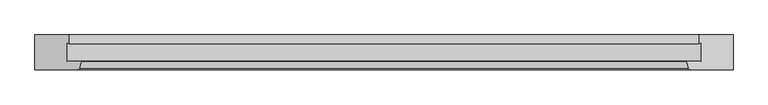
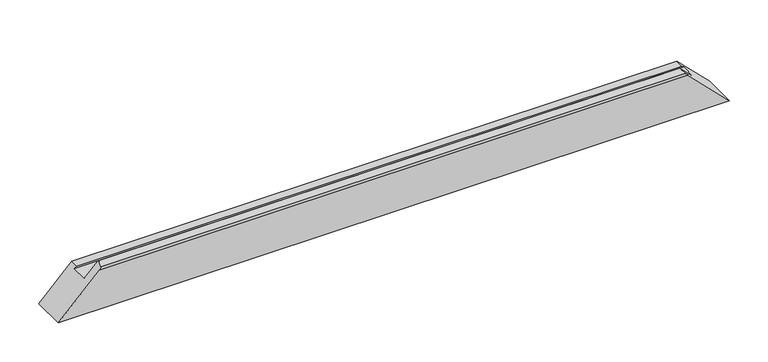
"""IFC4 building model written with IfcOpenShell, lengths in millimetres: proxy geometry, Weiku - Montante - Caixilho 02.2.01.005 : Weiku - Montante - Caixilho 02.2.01.005."""

from ifc_helpers import new_model, si_unit, frame, origin, place, context, project, spatial, ellipse_curve, source, transform, mapped, element, save
from ifc_brep_helpers import plane_surface, cylinder_surface, advanced_brep


def generic_models_15426903(model_context):
    return source(origin(), model_context, "Body", "AdvancedBrep", [
        advanced_brep(
        [(-453.625, 12.5, 46.0), (-433.5159676, 12.5, 66.1090324), (433.5159676, 12.5, 66.1090324), (453.625, 12.5, 46.0), (-453.625, 37.8314286, 46.0), (453.625, 37.8314286, 46.0), (-450.625, 37.027581, 49.0), (450.625, 37.027581, 49.0), (-450.625, 50.0, 49.0), (450.625, 50.0, 49.0), (499.625, 50.0, 0.0), (-499.625, 50.0, 0.0), (499.625, 0.0, 0.0), (-499.625, 0.0, 0.0), (438.1247332, 0.0, 61.5002668), (-438.1247332, 0.0, 61.5002668), (-432.743227, 11.4929448, 66.881773), (-435.2269557, 2.2235429, 64.3980443), (435.2269557, 2.2235429, 64.3980443), (432.743227, 11.4929448, 66.881773)],
        [
            (0, 1),
            (1, 2),
            (2, 3),
            (3, 0),
            (4, 0),
            (3, 5),
            (5, 4),
            (6, 4),
            (5, 7),
            (7, 6),
            (8, 6),
            (7, 9),
            (9, 8),
            (10, 11),
            (11, 8),
            (9, 10),
            (10, 12),
            (12, 13),
            (13, 11),
            (12, 14),
            (14, 15),
            (15, 13),
            (16, 17),
            (17, 18),
            (18, 19),
            (19, 16),
            (15, 17, ellipse_curve(frame((-438.1247332, 3.0, 61.5002668), z_axis=(-0.707106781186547, 0.0, 0.707106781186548), x_axis=(-0.7071067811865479, 0.0, -0.707106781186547)), 4.2426407, 3.0)),
            (16, 1, ellipse_curve(frame((-433.5159676, 11.7, 66.1090324), z_axis=(-0.707106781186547, 0.0, 0.707106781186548), x_axis=(-0.7071067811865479, 0.0, -0.707106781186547)), 1.1313708, 0.8)),
            (2, 19, ellipse_curve(frame((433.5159676, 11.7, 66.1090324), z_axis=(0.707106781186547, 0.0, 0.7071067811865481), x_axis=(-0.7071067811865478, 0.0, 0.707106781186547)), 1.1313708, 0.8)),
            (18, 14, ellipse_curve(frame((438.1247332, 3.0, 61.5002668), z_axis=(0.707106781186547, 0.0, 0.7071067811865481), x_axis=(-0.7071067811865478, 0.0, 0.707106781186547)), 4.2426407, 3.0)),
        ],
        [
            plane_surface(frame((-499.625, 12.5, 66.1090324), z_axis=(0.0, 1.0, 0.0), x_axis=(1.0, 0.0, 0.0))),
            plane_surface(frame((-499.625, 12.5, 46.0), z_axis=(0.0, 0.0, 1.0), x_axis=(1.0, 0.0, 0.0))),
            plane_surface(frame((-499.625, 37.8314286, 46.0), z_axis=(0.0, -0.9659258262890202, -0.2588190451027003), x_axis=(1.0, 0.0, 0.0))),
            plane_surface(frame((-499.625, 37.027581, 49.0), z_axis=(0.0, 0.0, 1.0), x_axis=(1.0, 0.0, 0.0))),
            plane_surface(frame((-499.625, 50.0, 49.0), z_axis=(0.0, 1.0, 0.0), x_axis=(1.0, 0.0, 0.0))),
            plane_surface(frame((-499.625, 50.0, 0.0), z_axis=(0.0, 0.0, -1.0), x_axis=(1.0, 0.0, 0.0))),
            plane_surface(frame((-499.625, 0.0, 0.0), z_axis=(0.0, -1.0, 0.0), x_axis=(1.0, 0.0, 0.0))),
            plane_surface(frame((-499.625, 2.2235429, 64.3980443), z_axis=(0.0, -0.2588190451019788, 0.9659258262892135), x_axis=(1.0, 0.0, 0.0))),
            plane_surface(frame((-569.625, -15.0, -70.0), z_axis=(-0.707106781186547, 0.0, 0.707106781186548), x_axis=(0.0, 1.0, 0.0))),
            plane_surface(frame((429.625, -15.0, 70.0), z_axis=(0.707106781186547, 0.0, 0.7071067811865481), x_axis=(0.0, 1.0, 0.0))),
            cylinder_surface(frame((-499.625, 11.7, 66.1090324), z_axis=(-1.0, 0.0, 0.0), x_axis=(0.0, 1.0, 0.0)), 0.8),
            cylinder_surface(frame((-499.625, 3.0, 61.5002668), z_axis=(-1.0, 0.0, 0.0), x_axis=(0.0, 1.0, 0.0)), 3.0),
        ],
        [
            (0, [[1, 2, 3, 4]]),
            (1, [[5, -4, 6, 7]]),
            (2, [[8, -7, 9, 10]]),
            (3, [[11, -10, 12, 13]]),
            (4, [[14, 15, -13, 16]]),
            (5, [[-14, 17, 18, 19]]),
            (6, [[-18, 20, 21, 22]]),
            (7, [[23, 24, 25, 26]]),
            (8, [[-1, -5, -8, -11, -15, -19, -22, 27, -23, 28]]),
            (9, [[-3, 29, -25, 30, -20, -17, -16, -12, -9, -6]]),
            (10, [[-28, -26, -29, -2]]),
            (11, [[-27, -21, -30, -24]]),
        ],
    ),
    ])


if __name__ == "__main__":
    model = new_model("IFC4")
    model_context = context("Model", 3, world=origin())
    ifc_project = project(units=[si_unit("LENGTHUNIT", "METRE", prefix="MILLI")], contexts=[model_context])
    site = spatial("IfcSite", under=ifc_project)
    building = spatial("IfcBuilding", under=site)
    placement = place(None, origin())
    generic_models_shape = generic_models_15426903(model_context)
    element("IfcBuildingElementProxy", 1, Name="Weiku - Montante - Caixilho 02.2.01.005 : Weiku - Montante - Caixilho 02.2.01.005", ObjectType="Weiku - Montante - Caixilho 02.2.01.005 : Weiku - Montante - Caixilho 02.2.01.005", at=placement, inside=building, context=model_context, shape_type="MappedRepresentation", body=[
        mapped(generic_models_shape, transform((0.0, 0.0, 0.0), x_axis=(1.0, 0.0, 0.0), y_axis=(0.0, 1.0, 0.0), z_axis=(0.0, 0.0, 1.0))),
    ])
    save(model, "model.ifc")
